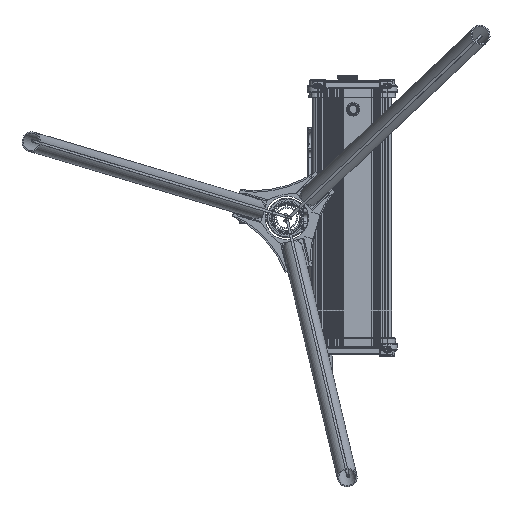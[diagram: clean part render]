
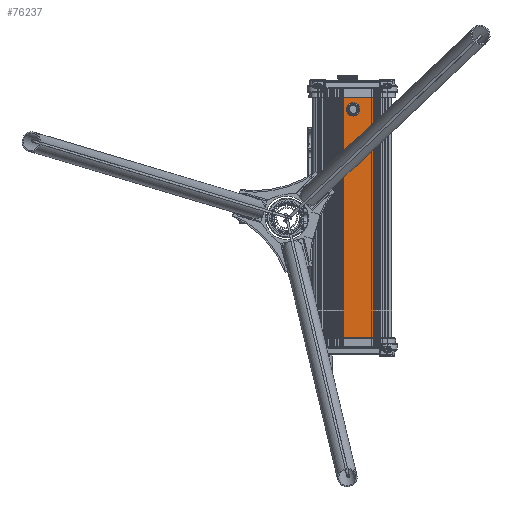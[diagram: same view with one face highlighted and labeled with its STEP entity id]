
A CAD part, front view. The second image highlights one B-rep face of the part: STEP entity #76237.
In plain terms, the highlighted planar face has unit normal (0, -1, 0).
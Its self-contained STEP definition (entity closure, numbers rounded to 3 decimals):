
#2851=FACE_BOUND('',#21538,.T.);
#3453=PLANE('',#80813);
#5315=LINE('',#113814,#10514);
#5316=LINE('',#113816,#10515);
#5317=LINE('',#113818,#10516);
#5318=LINE('',#113819,#10517);
#10514=VECTOR('',#90020,42.03);
#10515=VECTOR('',#90021,327.);
#10516=VECTOR('',#90022,42.03);
#10517=VECTOR('',#90023,327.);
#17115=FACE_OUTER_BOUND('',#21537,.T.);
#21537=EDGE_LOOP('',(#49845,#49846,#49847,#49848));
#21538=EDGE_LOOP('',(#49849));
#26389=CIRCLE('',#80814,6.1);
#30826=VERTEX_POINT('',#113812);
#30827=VERTEX_POINT('',#113813);
#30828=VERTEX_POINT('',#113815);
#30829=VERTEX_POINT('',#113817);
#30830=VERTEX_POINT('',#113820);
#38232=EDGE_CURVE('',#30826,#30827,#5315,.T.);
#38233=EDGE_CURVE('',#30827,#30828,#5316,.T.);
#38234=EDGE_CURVE('',#30829,#30828,#5317,.T.);
#38235=EDGE_CURVE('',#30826,#30829,#5318,.T.);
#38236=EDGE_CURVE('',#30830,#30830,#26389,.T.);
#49845=ORIENTED_EDGE('',*,*,#38232,.T.);
#49846=ORIENTED_EDGE('',*,*,#38233,.T.);
#49847=ORIENTED_EDGE('',*,*,#38234,.F.);
#49848=ORIENTED_EDGE('',*,*,#38235,.F.);
#49849=ORIENTED_EDGE('',*,*,#38236,.T.);
#76237=ADVANCED_FACE('',(#17115,#2851),#3453,.T.);
#80813=AXIS2_PLACEMENT_3D('',#113811,#90018,#90019);
#80814=AXIS2_PLACEMENT_3D('',#113821,#90024,#90025);
#90018=DIRECTION('center_axis',(0.,-1.,0.));
#90019=DIRECTION('ref_axis',(-1.,0.,0.));
#90020=DIRECTION('',(-1.,0.,0.));
#90021=DIRECTION('',(0.,0.,-1.));
#90022=DIRECTION('',(-1.,0.,0.));
#90023=DIRECTION('',(0.,0.,-1.));
#90024=DIRECTION('center_axis',(0.,1.,0.));
#90025=DIRECTION('ref_axis',(0.,0.,
1.));
#113811=CARTESIAN_POINT('Origin',(84.045,349.275,345.305));
#113812=CARTESIAN_POINT('',(84.045,349.275,345.305));
#113813=CARTESIAN_POINT('',(42.014,349.275,345.305));
#113814=CARTESIAN_POINT('',(84.045,349.275,345.305));
#113815=CARTESIAN_POINT('',(42.014,349.275,18.305));
#113816=CARTESIAN_POINT('',(42.014,349.275,345.305));
#113817=CARTESIAN_POINT('',(84.045,349.275,18.305));
#113818=CARTESIAN_POINT('',(84.045,349.275,18.305));
#113819=CARTESIAN_POINT('',(84.045,349.275,345.305));
#113820=CARTESIAN_POINT('',(54.779,349.275,313.205));
#113821=CARTESIAN_POINT('Origin',(54.779,349.275,319.305));
